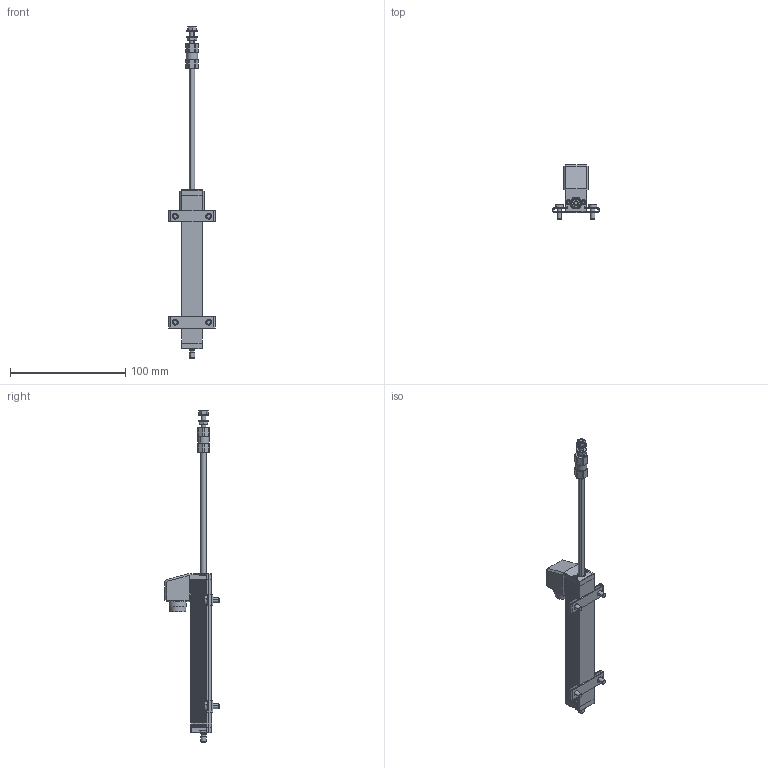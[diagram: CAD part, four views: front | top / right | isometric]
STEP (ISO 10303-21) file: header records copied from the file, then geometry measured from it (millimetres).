
FILE_DESCRIPTION (( 'STEP AP214' ), '1' );
FILE_NAME ('TS_100.STEP', '2008-11-05T10:47:38', ( 'novotechnik' ), ( 'novotechnik' ), 'SwSTEP 2.0', 'SolidWorks 2008', '' );
FILE_SCHEMA (( 'AUTOMOTIVE_DESIGN' ));
Length unit declared in the file: millimetre
Products named in the file (4): T-Serie_Klammer_Standard; T_TS_100_-_Schubstange_Standard; TS_100_-_Gehaeuse_Standard; TS_100
Assembly tree (4 placements, depth 2):
  TS_100
    T-Serie_Klammer_Standard  x2
    T_TS_100_-_Schubstange_Standard
    TS_100_-_Gehaeuse_Standard
Bounding box: 40.19 x 47.2 x 288 mm (x, y, z)
Volume: 62224.7 mm3; surface area: 32243.5 mm2
Topology: 32 solids, 32 shells, 1205 faces, 2936 edges, 1817 vertices
Faces by surface type: cylinder 561, plane 371, cone 152, bspline 117, torus 4
Entity records: 49818 total; most frequent: CARTESIAN_POINT 10209, DIRECTION 5805, ORIENTED_EDGE 5488, EDGE_CURVE 2744, AXIS2_PLACEMENT_3D 2283, VERTEX_POINT 1713, EDGE_LOOP 1257, CIRCLE 1254
